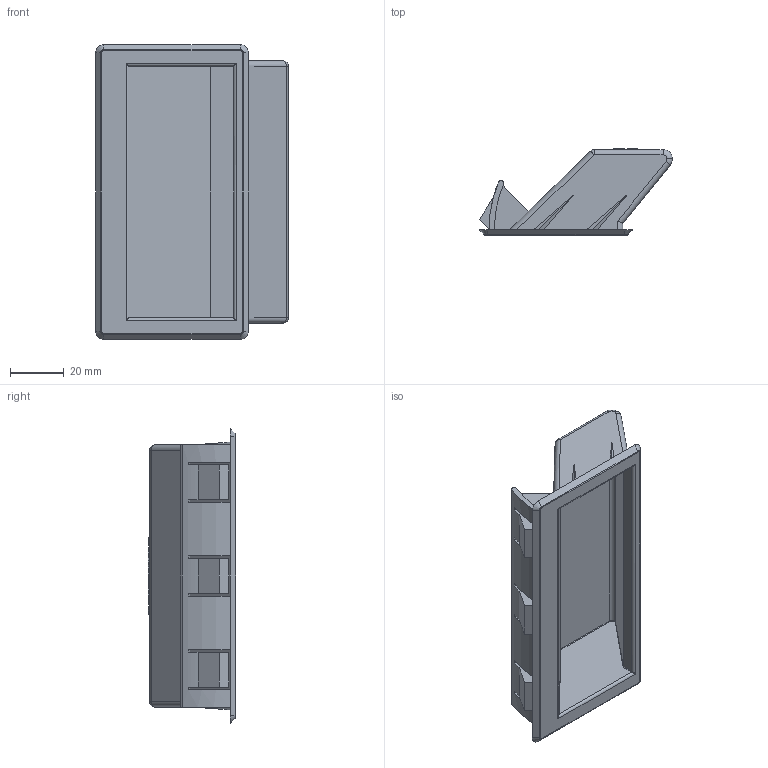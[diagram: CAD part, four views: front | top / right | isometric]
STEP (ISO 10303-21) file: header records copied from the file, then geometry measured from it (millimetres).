
FILE_DESCRIPTION (( 'STEP AP203' ), '1' );
FILE_NAME ('SK4-017-2.STEP', '2018-05-22T06:21:19', ( 'admin' ), ( 'Microsoft' ), 'SwSTEP 2.0', 'SolidWorks 2015', '' );
FILE_SCHEMA (( 'CONFIG_CONTROL_DESIGN' ));
Length unit declared in the file: millimetre
Products named in the file (1): SK4-017-2
Bounding box: 72 x 32.5 x 110 mm (x, y, z)
Volume: 33779.5 mm3; surface area: 34588.3 mm2
Topology: 1 solids, 1 shells, 318 faces, 860 edges, 552 vertices
Faces by surface type: plane 213, bspline 53, cylinder 32, torus 12, sphere 4, cone 4
Entity records: 13369 total; most frequent: CARTESIAN_POINT 5644, ORIENTED_EDGE 1704, DIRECTION 1382, EDGE_CURVE 852, VECTOR 634, LINE 634, VERTEX_POINT 552, AXIS2_PLACEMENT_3D 374
